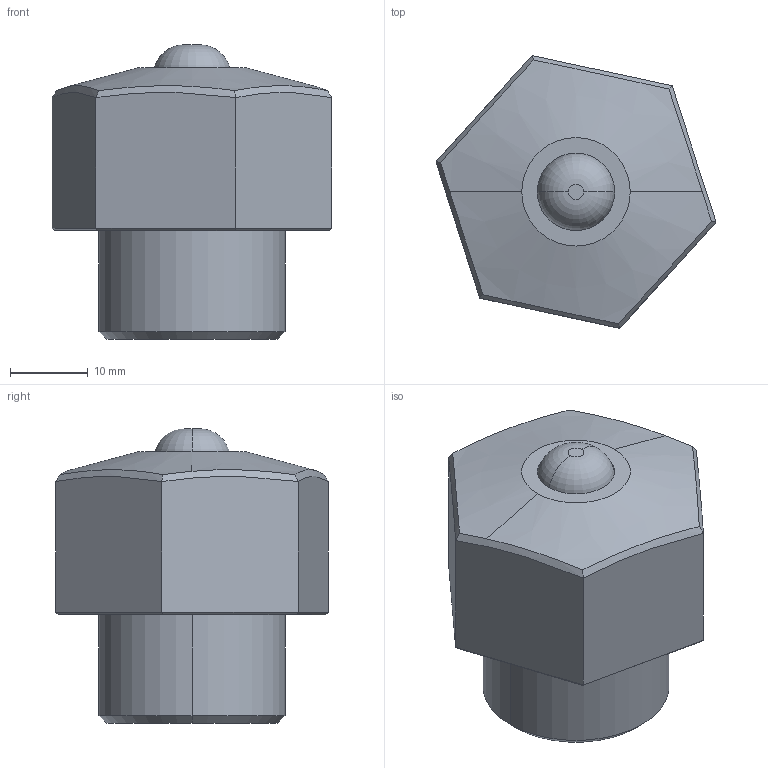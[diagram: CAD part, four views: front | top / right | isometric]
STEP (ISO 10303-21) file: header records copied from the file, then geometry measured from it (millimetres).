
FILE_DESCRIPTION (( 'STEP AP214' ), '1' );
FILE_NAME ('TO4C-M241.STEP', '2020-08-02T05:11:17', ( '' ), ( '' ), 'SwSTEP 2.0', 'SolidWorks 2019', '' );
FILE_SCHEMA (( 'AUTOMOTIVE_DESIGN' ));
Length unit declared in the file: millimetre
Products named in the file (3): TO3C-M241-BODY.; PISTON-M241; TO4C-M241
Assembly tree (2 placements, depth 2):
  TO4C-M241
    TO3C-M241-BODY.
    PISTON-M241
Bounding box: 36.12 x 35.17 x 38 mm (x, y, z)
Volume: 23765.9 mm3; surface area: 6552 mm2
Topology: 2 solids, 2 shells, 44 faces, 90 edges, 54 vertices
Faces by surface type: plane 20, cylinder 10, cone 6, bspline 6, torus 2
Entity records: 2090 total; most frequent: CARTESIAN_POINT 1069, DIRECTION 186, ORIENTED_EDGE 180, EDGE_CURVE 90, AXIS2_PLACEMENT_3D 73, VERTEX_POINT 54, EDGE_LOOP 48, FACE_OUTER_BOUND 44
